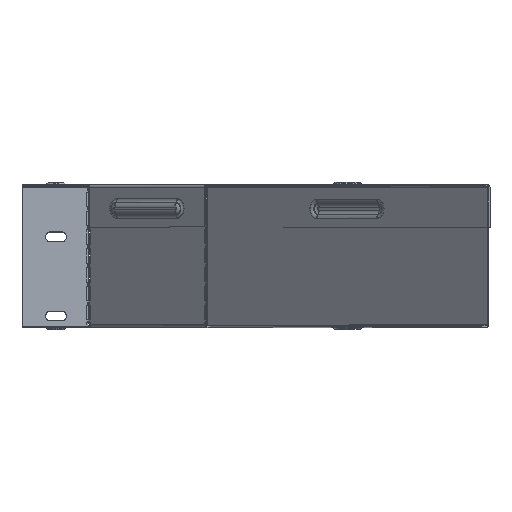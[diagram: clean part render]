
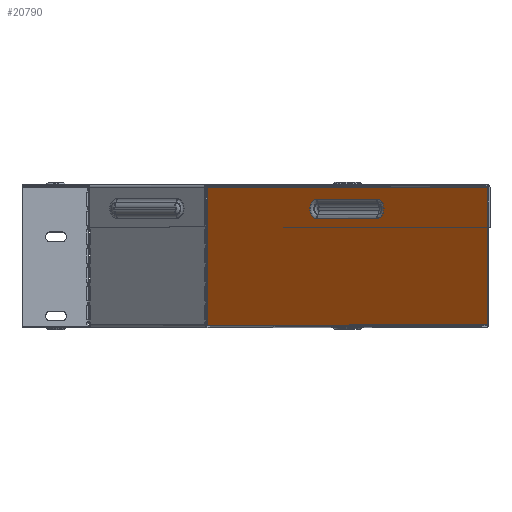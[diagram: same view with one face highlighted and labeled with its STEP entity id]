
A CAD part, top view. The second image highlights one B-rep face of the part: STEP entity #20790.
In plain terms, the highlighted planar face has unit normal (-0.707, 0, 0.707).
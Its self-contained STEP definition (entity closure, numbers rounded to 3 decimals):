
#75 = DIRECTION ( 'NONE',  ( 0.707, 0., 0.707 ) ) ;
#207 = DIRECTION ( 'NONE',  ( -0.707, 0., 0.707 ) ) ;
#321 = LINE ( 'NONE', #4953, #9812 ) ;
#681 = EDGE_LOOP ( 'NONE', ( #15441, #6193, #19531, #1961 ) ) ;
#829 = LINE ( 'NONE', #12718, #14435 ) ;
#1583 = CARTESIAN_POINT ( 'NONE',  ( 85.648, 83.1, -43.221 ) ) ;
#1961 = ORIENTED_EDGE ( 'NONE', *, *, #17618, .F. ) ;
#2218 = DIRECTION ( 'NONE',  ( 0.707, 0., 0.707 ) ) ;
#2479 = VERTEX_POINT ( 'NONE', #4475 ) ;
#2498 = VECTOR ( 'NONE', #12647, 1000. ) ;
#3180 = DIRECTION ( 'NONE',  ( -0.707, 0., 0.707 ) ) ;
#3253 = EDGE_CURVE ( 'NONE', #19977, #18402, #18352, .T. ) ;
#3298 = EDGE_CURVE ( 'NONE', #16223, #8326, #5479, .T. ) ;
#3392 = DIRECTION ( 'NONE',  ( 0., 1., 0. ) ) ;
#4079 = LINE ( 'NONE', #6844, #10338 ) ;
#4184 = EDGE_CURVE ( 'NONE', #11433, #13160, #13504, .T. ) ;
#4475 = CARTESIAN_POINT ( 'NONE',  ( 164.123, 98.2, 35.255 ) ) ;
#4694 = CARTESIAN_POINT ( 'NONE',  ( 164.123, 0., 35.255 ) ) ;
#4833 = DIRECTION ( 'NONE',  ( 0., 1., 0. ) ) ;
#4953 = CARTESIAN_POINT ( 'NONE',  ( 164.434, 98.2, 35.566 ) ) ;
#5479 = CIRCLE ( 'NONE', #6473, 6.917 ) ;
#6193 = ORIENTED_EDGE ( 'NONE', *, *, #13830, .F. ) ;
#6473 = AXIS2_PLACEMENT_3D ( 'NONE', #1583, #3180, #14469 ) ;
#6844 = CARTESIAN_POINT ( 'NONE',  ( 64.434, 90.017, -64.434 ) ) ;
#6913 = CARTESIAN_POINT ( 'NONE',  ( -35.255, 0., -164.123 ) ) ;
#7666 = DIRECTION ( 'NONE',  ( 0.707, 0., 0.707 ) ) ;
#7988 = EDGE_CURVE ( 'NONE', #19398, #11433, #12601, .T. ) ;
#8179 = ORIENTED_EDGE ( 'NONE', *, *, #4184, .F. ) ;
#8326 = VERTEX_POINT ( 'NONE', #15543 ) ;
#8453 = CARTESIAN_POINT ( 'NONE',  ( 64.434, 0., -64.434 ) ) ;
#8791 = DIRECTION ( 'NONE',  ( 0., 1., 0. ) ) ;
#9170 = VECTOR ( 'NONE', #8791, 1000. ) ;
#9483 = CARTESIAN_POINT ( 'NONE',  ( -35.255, 98.2, -164.123 ) ) ;
#9812 = VECTOR ( 'NONE', #75, 1000. ) ;
#10109 = EDGE_LOOP ( 'NONE', ( #18769, #11128, #19302, #8179 ) ) ;
#10304 = CARTESIAN_POINT ( 'NONE',  ( 85.648, 76.183, -43.221 ) ) ;
#10338 = VECTOR ( 'NONE', #19771, 1000. ) ;
#10356 = VECTOR ( 'NONE', #4833, 1000. ) ;
#10374 = CARTESIAN_POINT ( 'NONE',  ( 43.221, 90.017, -85.648 ) ) ;
#11045 = CARTESIAN_POINT ( 'NONE',  ( -35.255, 1., -164.123 ) ) ;
#11128 = ORIENTED_EDGE ( 'NONE', *, *, #13690, .T. ) ;
#11433 = VERTEX_POINT ( 'NONE', #11045 ) ;
#12601 = LINE ( 'NONE', #12726, #2498 ) ;
#12647 = DIRECTION ( 'NONE',  ( -0.707, 0., -0.707 ) ) ;
#12718 = CARTESIAN_POINT ( 'NONE',  ( 64.434, 76.183, -64.434 ) ) ;
#12726 = CARTESIAN_POINT ( 'NONE',  ( 164.434, 1., 35.566 ) ) ;
#12870 = CARTESIAN_POINT ( 'NONE',  ( 164.123, 1., 35.255 ) ) ;
#13160 = VERTEX_POINT ( 'NONE', #9483 ) ;
#13504 = LINE ( 'NONE', #6913, #9170 ) ;
#13690 = EDGE_CURVE ( 'NONE', #19398, #2479, #17225, .T. ) ;
#13830 = EDGE_CURVE ( 'NONE', #8326, #19977, #4079, .T. ) ;
#14435 = VECTOR ( 'NONE', #7666, 1000. ) ;
#14469 = DIRECTION ( 'NONE',  ( 0., 1., 0. ) ) ;
#15119 = PLANE ( 'NONE',  #16232 ) ;
#15133 = FACE_OUTER_BOUND ( 'NONE', #10109, .T. ) ;
#15396 = CARTESIAN_POINT ( 'NONE',  ( 43.221, 76.183, -85.648 ) ) ;
#15441 = ORIENTED_EDGE ( 'NONE', *, *, #3253, .F. ) ;
#15543 = CARTESIAN_POINT ( 'NONE',  ( 85.648, 90.017, -43.221 ) ) ;
#16223 = VERTEX_POINT ( 'NONE', #10304 ) ;
#16232 = AXIS2_PLACEMENT_3D ( 'NONE', #8453, #18423, #2218 ) ;
#17225 = LINE ( 'NONE', #4694, #10356 ) ;
#17618 = EDGE_CURVE ( 'NONE', #18402, #16223, #829, .T. ) ;
#17668 = FACE_BOUND ( 'NONE', #681, .T. ) ;
#17770 = EDGE_CURVE ( 'NONE', #13160, #2479, #321, .T. ) ;
#18352 = CIRCLE ( 'NONE', #19182, 6.917 ) ;
#18402 = VERTEX_POINT ( 'NONE', #15396 ) ;
#18423 = DIRECTION ( 'NONE',  ( -0.707, 0., 0.707 ) ) ;
#18769 = ORIENTED_EDGE ( 'NONE', *, *, #7988, .F. ) ;
#19182 = AXIS2_PLACEMENT_3D ( 'NONE', #20168, #207, #3392 ) ;
#19302 = ORIENTED_EDGE ( 'NONE', *, *, #17770, .F. ) ;
#19398 = VERTEX_POINT ( 'NONE', #12870 ) ;
#19531 = ORIENTED_EDGE ( 'NONE', *, *, #3298, .F. ) ;
#19771 = DIRECTION ( 'NONE',  ( -0.707, 0., -0.707 ) ) ;
#19977 = VERTEX_POINT ( 'NONE', #10374 ) ;
#20168 = CARTESIAN_POINT ( 'NONE',  ( 43.221, 83.1, -85.648 ) ) ;
#20790 = ADVANCED_FACE ( 'NONE', ( #17668, #15133 ), #15119, .T. ) ;
